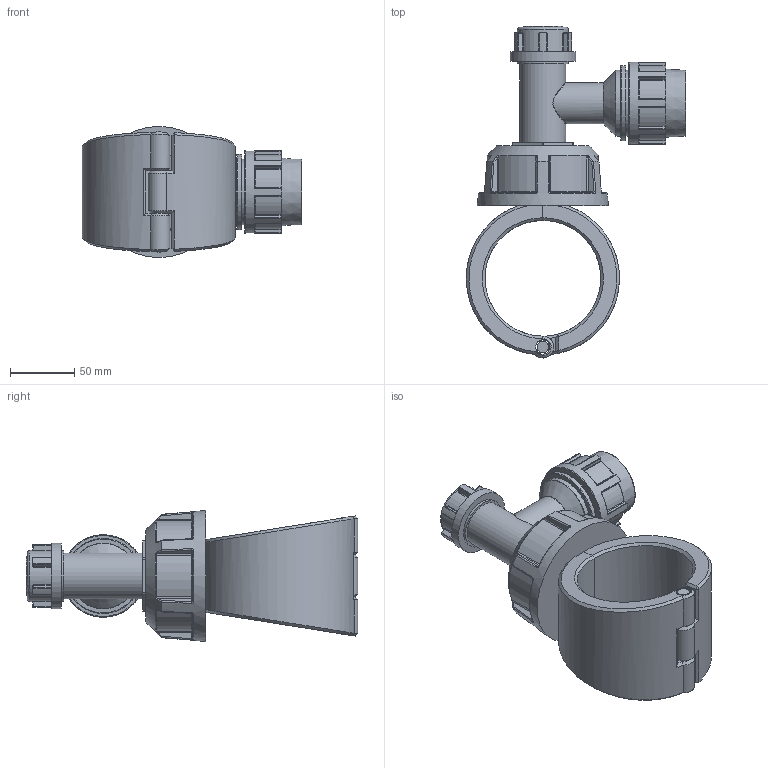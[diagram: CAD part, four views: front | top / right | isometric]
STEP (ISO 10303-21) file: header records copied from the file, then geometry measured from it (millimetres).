
FILE_DESCRIPTION(/* description */ ('Plassadle Tapper 90x32'),/* implementation_level */ '2;1');
FILE_NAME(/* name */ 'C:\Users\comp2\Dropbox\99-16-3568-Processing\Mechanical Fittings\16310\stp\163100090032_1631060900320A.stp',/* time_stamp */ '2022-02-03T11:57:26+00:00',/* author */ ('comp2'),/* organization */ (''),/* preprocessor_version */ 'ST-DEVELOPER v17.2',/* originating_system */ 'Autodesk Inventor 2019',/* authorisation */ '');
FILE_SCHEMA (('AUTOMOTIVE_DESIGN { 1 0 10303 214 3 1 1 }'));
Length unit declared in the file: millimetre
Products named in the file (1): 163100090032_1631060900320A
Bounding box: 170.5 x 258 x 102 mm (x, y, z)
Volume: 915530.8 mm3; surface area: 130339.4 mm2
Topology: 4 solids, 4 shells, 519 faces, 1253 edges, 754 vertices
Faces by surface type: cylinder 184, plane 109, bspline 87, torus 83, sphere 40, cone 16
Full cylindrical faces by diameter (mm): 9.08 x1, 11.08 x3, 30.6 x1, 32 x2, 35.7 x1, 39.7 x2, 51 x1, 51.2 x2, 58.414 x1, 64 x1
Entity records: 18847 total; most frequent: CARTESIAN_POINT 7094, ORIENTED_EDGE 2508, DIRECTION 2426, EDGE_CURVE 1254, AXIS2_PLACEMENT_3D 1028, VERTEX_POINT 755, CIRCLE 563, EDGE_LOOP 537
